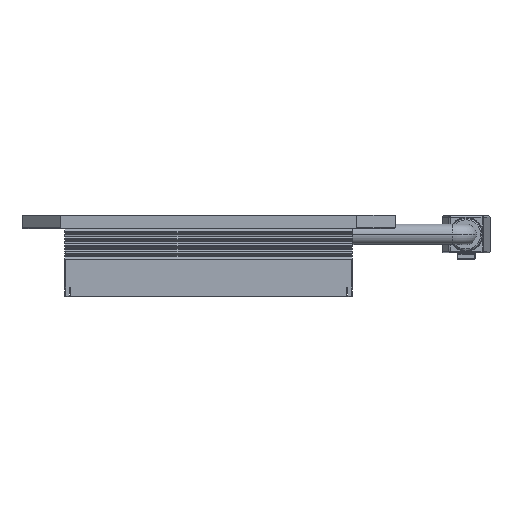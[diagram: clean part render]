
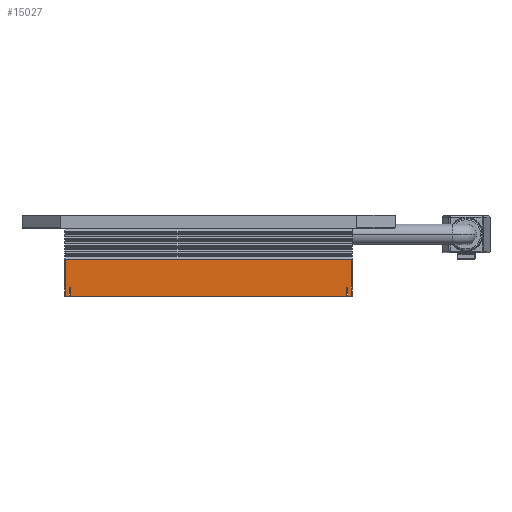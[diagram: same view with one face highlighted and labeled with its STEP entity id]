
A CAD part, left-side view. The second image highlights one B-rep face of the part: STEP entity #15027.
In plain terms, the highlighted planar face has unit normal (-1, 0, 0).
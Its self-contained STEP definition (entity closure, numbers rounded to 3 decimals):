
#4035=DIRECTION('',(0.,0.,1.));
#4036=VECTOR('',#4035,2.);
#4037=CARTESIAN_POINT('',(-31.6,-30.4,-15.));
#4038=LINE('',#4037,#4036);
#4039=DIRECTION('',(0.,-1.,0.));
#4040=VECTOR('',#4039,60.8);
#4041=CARTESIAN_POINT('',(-31.6,30.4,-15.));
#4042=LINE('',#4041,#4040);
#4043=DIRECTION('',(0.,0.,1.));
#4044=VECTOR('',#4043,1.8);
#4045=CARTESIAN_POINT('',(-31.6,30.6,-14.8));
#4046=LINE('',#4045,#4044);
#4047=DIRECTION('',(0.,0.,-1.));
#4048=VECTOR('',#4047,7.95);
#4049=CARTESIAN_POINT('',(-31.6,31.4,-6.85));
#4050=LINE('',#4049,#4048);
#4051=DIRECTION('',(0.,0.,1.));
#4052=VECTOR('',#4051,7.95);
#4053=CARTESIAN_POINT('',(-31.6,-31.4,-14.8));
#4054=LINE('',#4053,#4052);
#4055=DIRECTION('',(0.,-1.,0.));
#4056=VECTOR('',#4055,0.8);
#4057=CARTESIAN_POINT('',(-31.6,-30.6,-14.8));
#4058=LINE('',#4057,#4056);
#4059=DIRECTION('',(0.,0.,-1.));
#4060=VECTOR('',#4059,1.8);
#4061=CARTESIAN_POINT('',(-31.6,-30.6,-13.));
#4062=LINE('',#4061,#4060);
#4067=DIRECTION('',(0.,1.,0.));
#4068=VECTOR('',#4067,0.2);
#4069=CARTESIAN_POINT('',(-31.6,-30.6,-13.));
#4070=LINE('',#4069,#4068);
#4091=DIRECTION('',(0.,1.,0.));
#4092=VECTOR('',#4091,0.2);
#4093=CARTESIAN_POINT('',(-31.6,30.4,-13.));
#4094=LINE('',#4093,#4092);
#4115=DIRECTION('',(0.,0.,1.));
#4116=VECTOR('',#4115,2.);
#4117=CARTESIAN_POINT('',(-31.6,30.4,-15.));
#4118=LINE('',#4117,#4116);
#5747=DIRECTION('',(0.,1.,0.));
#5748=VECTOR('',#5747,0.8);
#5749=CARTESIAN_POINT('',(-31.6,30.6,-14.8));
#5750=LINE('',#5749,#5748);
#5807=CARTESIAN_POINT('',(-31.6,31.4,-6.85));
#5813=CARTESIAN_POINT('',(-31.6,-31.4,-6.85));
#5819=DIRECTION('',(0.,-1.,0.));
#5820=VECTOR('',#5819,62.8);
#5821=CARTESIAN_POINT('',(-31.6,31.4,-6.85));
#5822=LINE('',#5821,#5820);
#8132=CARTESIAN_POINT('',(-31.6,30.6,-14.8));
#8133=VERTEX_POINT('',#8132);
#8134=CARTESIAN_POINT('',(-31.6,30.6,-13.));
#8135=VERTEX_POINT('',#8134);
#8140=VERTEX_POINT('',#5807);
#8141=CARTESIAN_POINT('',(-31.6,31.4,-14.8));
#8142=VERTEX_POINT('',#8141);
#8143=VERTEX_POINT('',#5813);
#8146=CARTESIAN_POINT('',(-31.6,-31.4,-14.8));
#8147=VERTEX_POINT('',#8146);
#8157=CARTESIAN_POINT('',(-31.6,-30.6,-14.8));
#8159=VERTEX_POINT('',#8157);
#8160=CARTESIAN_POINT('',(-31.6,-30.6,-13.));
#8161=VERTEX_POINT('',#8160);
#8162=CARTESIAN_POINT('',(-31.6,-30.4,-15.));
#8164=VERTEX_POINT('',#8162);
#8168=CARTESIAN_POINT('',(-31.6,30.4,-15.));
#8169=VERTEX_POINT('',#8168);
#9608=CARTESIAN_POINT('',(-31.6,-30.4,-13.));
#9610=VERTEX_POINT('',#9608);
#9612=CARTESIAN_POINT('',(-31.6,30.4,-13.));
#9614=VERTEX_POINT('',#9612);
#14997=CARTESIAN_POINT('',(-31.6,-31.6,0.));
#14998=DIRECTION('',(-1.,0.,0.));
#14999=DIRECTION('',(0.,1.,0.));
#15000=AXIS2_PLACEMENT_3D('',#14997,#14998,#14999);
#15001=PLANE('',#15000);
#15003=ORIENTED_EDGE('',*,*,#15002,.T.);
#15005=ORIENTED_EDGE('',*,*,#15004,.F.);
#15007=ORIENTED_EDGE('',*,*,#15006,.F.);
#15009=ORIENTED_EDGE('',*,*,#15008,.T.);
#15011=ORIENTED_EDGE('',*,*,#15010,.T.);
#15013=ORIENTED_EDGE('',*,*,#15012,.F.);
#15015=ORIENTED_EDGE('',*,*,#15014,.T.);
#15017=ORIENTED_EDGE('',*,*,#15016,.F.);
#15019=ORIENTED_EDGE('',*,*,#15018,.T.);
#15020=ORIENTED_EDGE('',*,*,#14984,.F.);
#15022=ORIENTED_EDGE('',*,*,#15021,.F.);
#15024=ORIENTED_EDGE('',*,*,#15023,.F.);
#15025=EDGE_LOOP('',(#15003,#15005,#15007,#15009,#15011,#15013,#15015,#15017,
#15019,#15020,#15022,#15024));
#15026=FACE_OUTER_BOUND('',#15025,.F.);
#15027=ADVANCED_FACE('',(#15026),#15001,.T.);
#14984=EDGE_CURVE('',#8147,#8143,#4054,.T.);
#15002=EDGE_CURVE('',#8161,#9610,#4070,.T.);
#15004=EDGE_CURVE('',#8164,#9610,#4038,.T.);
#15006=EDGE_CURVE('',#8169,#8164,#4042,.T.);
#15008=EDGE_CURVE('',#8169,#9614,#4118,.T.);
#15010=EDGE_CURVE('',#9614,#8135,#4094,.T.);
#15012=EDGE_CURVE('',#8133,#8135,#4046,.T.);
#15014=EDGE_CURVE('',#8133,#8142,#5750,.T.);
#15016=EDGE_CURVE('',#8140,#8142,#4050,.T.);
#15018=EDGE_CURVE('',#8140,#8143,#5822,.T.);
#15021=EDGE_CURVE('',#8159,#8147,#4058,.T.);
#15023=EDGE_CURVE('',#8161,#8159,#4062,.T.);
